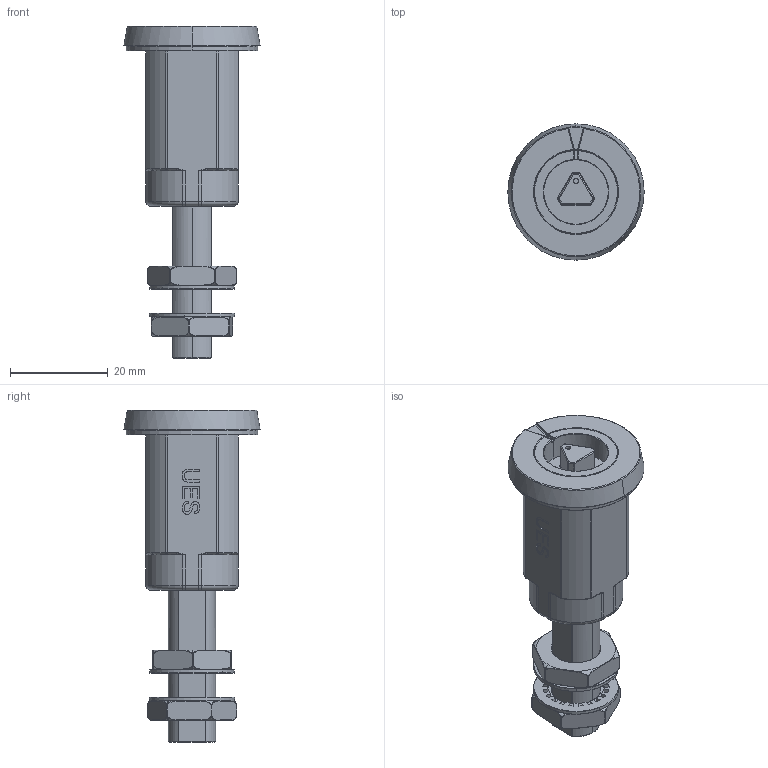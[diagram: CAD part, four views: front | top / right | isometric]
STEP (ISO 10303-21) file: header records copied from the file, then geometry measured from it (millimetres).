
FILE_DESCRIPTION (( 'STEP AP203' ), '1' );
FILE_NAME ('E3L1BP8H.STEP', '2018-06-25T01:08:29', ( '' ), ( '' ), 'SwSTEP 2.0', 'SolidWorks 2018', '' );
FILE_SCHEMA (( 'CONFIG_CONTROL_DESIGN' ));
Length unit declared in the file: millimetre
Products named in the file (6): Gasket; Lockwasher sml; Nut; E3L1BP8H; Mock Insert E3_7mm Triangle; UES E3 Barrel_BP
Assembly tree (7 placements, depth 2):
  E3L1BP8H
    Mock Insert E3_7mm Triangle
    UES E3 Barrel_BP
    Gasket
    Lockwasher sml  x2
    Nut  x2
Bounding box: 27.96 x 27.96 x 68.1 mm (x, y, z)
Volume: 11757.7 mm3; surface area: 10907.9 mm2
Topology: 7 solids, 7 shells, 928 faces, 2351 edges, 1429 vertices
Faces by surface type: plane 301, cylinder 253, bspline 195, torus 153, sphere 24, cone 2
Entity records: 29613 total; most frequent: CARTESIAN_POINT 12046, ORIENTED_EDGE 3712, DIRECTION 3285, EDGE_CURVE 1856, AXIS2_PLACEMENT_3D 1234, VERTEX_POINT 1139, LINE 817, VECTOR 817
